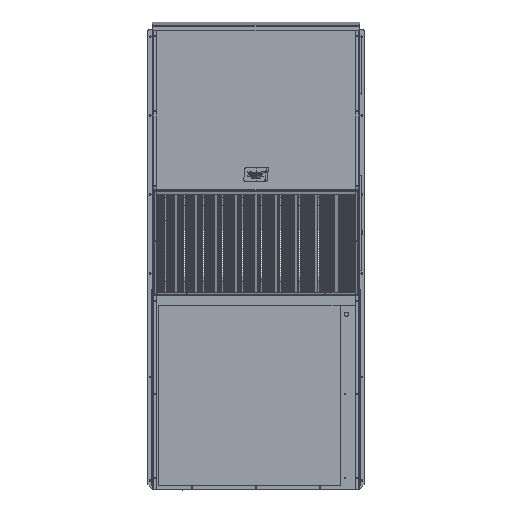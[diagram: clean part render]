
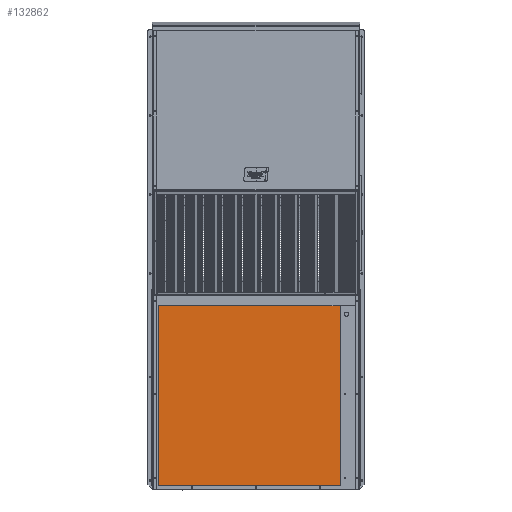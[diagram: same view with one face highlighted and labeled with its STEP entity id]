
A CAD part, top view. The second image highlights one B-rep face of the part: STEP entity #132862.
In plain terms, the highlighted planar face has unit normal (0, 0, 1).
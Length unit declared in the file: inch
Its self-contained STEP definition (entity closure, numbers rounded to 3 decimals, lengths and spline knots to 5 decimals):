
#5985 = DIRECTION ( 'NONE',  ( 0., -1., 0. ) ) ;
#15170 = CARTESIAN_POINT ( 'NONE',  ( -40.76887, -0.06016, 0.10789 ) ) ;
#16582 = CARTESIAN_POINT ( 'NONE',  ( -40.76887, -0.06016, 0.10789 ) ) ;
#21421 = VECTOR ( 'NONE', #144230, 39.37008 ) ;
#41578 = CARTESIAN_POINT ( 'NONE',  ( -40.76887, 40.08284, 0.10789 ) ) ;
#44101 = CARTESIAN_POINT ( 'NONE',  ( -3.69587, -0.06016, 0.10789 ) ) ;
#45975 = CARTESIAN_POINT ( 'NONE',  ( -3.69587, 40.08284, 0.10789 ) ) ;
#46524 = VECTOR ( 'NONE', #134941, 39.37008 ) ;
#57899 = EDGE_LOOP ( 'NONE', ( #181189, #115179, #126209, #60883 ) ) ;
#60883 = ORIENTED_EDGE ( 'NONE', *, *, #179040, .T. ) ;
#65886 = VERTEX_POINT ( 'NONE', #16582 ) ;
#67119 = CARTESIAN_POINT ( 'NONE',  ( -3.69587, 40.08284, 0.10789 ) ) ;
#72802 = EDGE_CURVE ( 'NONE', #91493, #171861, #91795, .T. ) ;
#75161 = VECTOR ( 'NONE', #141625, 39.37008 ) ;
#80462 = VECTOR ( 'NONE', #111674, 39.37008 ) ;
#88522 = AXIS2_PLACEMENT_3D ( 'NONE', #117717, #90155, #5985 ) ;
#90155 = DIRECTION ( 'NONE',  ( 0., 0., 1. ) ) ;
#91493 = VERTEX_POINT ( 'NONE', #44101 ) ;
#91795 = LINE ( 'NONE', #45975, #21421 ) ;
#92061 = CARTESIAN_POINT ( 'NONE',  ( -40.76887, 40.08284, 0.10789 ) ) ;
#102440 = EDGE_CURVE ( 'NONE', #120835, #65886, #125624, .T. ) ;
#110298 = EDGE_CURVE ( 'NONE', #171861, #120835, #159495, .T. ) ;
#111674 = DIRECTION ( 'NONE',  ( -1., 0., 0. ) ) ;
#115179 = ORIENTED_EDGE ( 'NONE', *, *, #110298, .T. ) ;
#117717 = CARTESIAN_POINT ( 'NONE',  ( -40.76887, 40.08284, 0.10789 ) ) ;
#120835 = VERTEX_POINT ( 'NONE', #165661 ) ;
#125624 = LINE ( 'NONE', #92061, #46524 ) ;
#126209 = ORIENTED_EDGE ( 'NONE', *, *, #102440, .T. ) ;
#132862 = ADVANCED_FACE ( 'NONE', ( #181614 ), #173531, .T. ) ;
#134941 = DIRECTION ( 'NONE',  ( 0., -1., 0. ) ) ;
#141625 = DIRECTION ( 'NONE',  ( 1., 0., 0. ) ) ;
#144230 = DIRECTION ( 'NONE',  ( 0., 1., 0. ) ) ;
#154211 = LINE ( 'NONE', #15170, #75161 ) ;
#159495 = LINE ( 'NONE', #41578, #80462 ) ;
#165661 = CARTESIAN_POINT ( 'NONE',  ( -40.76887, 40.08284, 0.10789 ) ) ;
#171861 = VERTEX_POINT ( 'NONE', #67119 ) ;
#173531 = PLANE ( 'NONE',  #88522 ) ;
#179040 = EDGE_CURVE ( 'NONE', #65886, #91493, #154211, .T. ) ;
#181189 = ORIENTED_EDGE ( 'NONE', *, *, #72802, .T. ) ;
#181614 = FACE_OUTER_BOUND ( 'NONE', #57899, .T. ) ;
